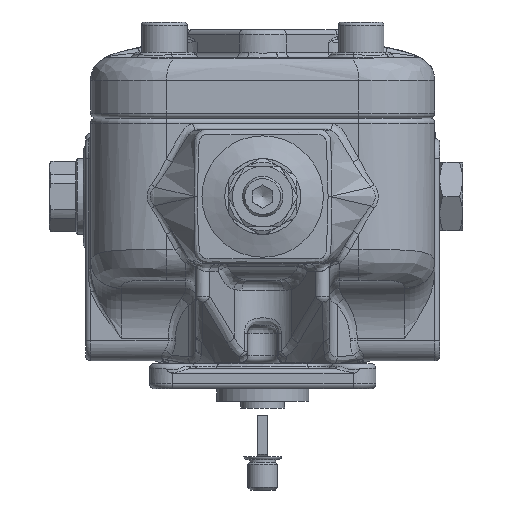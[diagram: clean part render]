
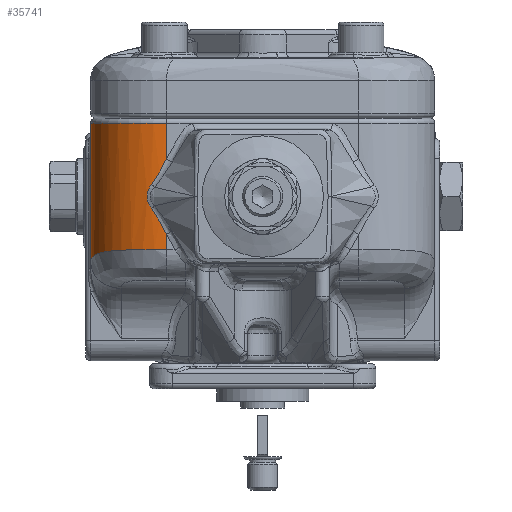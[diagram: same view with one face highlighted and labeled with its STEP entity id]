
A CAD part, front view. The second image highlights one B-rep face of the part: STEP entity #35741.
In plain terms, the highlighted cylindrical face has radius 30 mm (diameter 60 mm), a partial arc.
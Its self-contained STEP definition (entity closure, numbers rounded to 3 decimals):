
#1676=B_SPLINE_CURVE_WITH_KNOTS('',3,(#69648,#69649,#69650,#69651,#69652),
 .UNSPECIFIED.,.F.,.F.,(4,1,4),(-1.207,-0.517,0.),
 .UNSPECIFIED.);
#1681=B_SPLINE_CURVE_WITH_KNOTS('',3,(#69729,#69730,#69731,#69732,#69733,
#69734,#69735),.UNSPECIFIED.,.F.,.F.,(4,1,1,1,4),(-1.056,-0.754,
-0.604,-0.302,0.),.UNSPECIFIED.);
#1683=B_SPLINE_CURVE_WITH_KNOTS('',3,(#69794,#69795,#69796,#69797,#69798),
 .UNSPECIFIED.,.F.,.F.,(4,1,4),(-1.207,-0.69,0.),
 .UNSPECIFIED.);
#1706=B_SPLINE_CURVE_WITH_KNOTS('',3,(#70847,#70848,#70849,#70850,#70851,
#70852,#70853,#70854,#70855,#70856,#70857,#70858,#70859),.UNSPECIFIED.,
 .F.,.F.,(4,1,1,1,1,1,1,1,1,1,4),(-2.896,-2.585,-2.482,
-2.275,-2.068,-1.862,-1.551,
-1.241,-0.827,-0.414,0.),
 .UNSPECIFIED.);
#3530=LINE('',#70840,#5453);
#3531=LINE('',#70843,#5454);
#3532=LINE('',#70846,#5455);
#5453=VECTOR('',#46936,10.);
#5454=VECTOR('',#46939,10.);
#5455=VECTOR('',#46942,10.);
#6291=CYLINDRICAL_SURFACE('',#39048,30.);
#8010=FACE_OUTER_BOUND('',#10189,.T.);
#10189=EDGE_LOOP('',(#28505,#28506,#28507,#28508,#28509,#28510,#28511,#28512));
#12297=CIRCLE('',#39049,30.);
#15061=VERTEX_POINT('',#65444);
#15186=VERTEX_POINT('',#68968);
#15192=VERTEX_POINT('',#69647);
#15195=VERTEX_POINT('',#69720);
#15197=VERTEX_POINT('',#69793);
#15224=VERTEX_POINT('',#70834);
#15226=VERTEX_POINT('',#70842);
#15227=VERTEX_POINT('',#70845);
#19742=EDGE_CURVE('',#15186,#15192,#1676,.T.);
#19750=EDGE_CURVE('',#15192,#15195,#1681,.T.);
#19753=EDGE_CURVE('',#15195,#15197,#1683,.T.);
#19808=EDGE_CURVE('',#15224,#15197,#3530,.T.);
#19809=EDGE_CURVE('',#15186,#15226,#3531,.T.);
#19810=EDGE_CURVE('',#15061,#15226,#12297,.T.);
#19811=EDGE_CURVE('',#15227,#15061,#3532,.T.);
#19812=EDGE_CURVE('',#15224,#15227,#1706,.T.);
#28505=ORIENTED_EDGE('',*,*,#19753,.F.);
#28506=ORIENTED_EDGE('',*,*,#19750,.F.);
#28507=ORIENTED_EDGE('',*,*,#19742,.F.);
#28508=ORIENTED_EDGE('',*,*,#19809,.T.);
#28509=ORIENTED_EDGE('',*,*,#19810,.F.);
#28510=ORIENTED_EDGE('',*,*,#19811,.F.);
#28511=ORIENTED_EDGE('',*,*,#19812,.F.);
#28512=ORIENTED_EDGE('',*,*,#19808,.T.);
#35741=ADVANCED_FACE('',(#8010),#6291,.T.);
#39048=AXIS2_PLACEMENT_3D('',#70841,#46937,#46938);
#39049=AXIS2_PLACEMENT_3D('',#70844,#46940,#46941);
#46936=DIRECTION('',(0.,0.,1.));
#46937=DIRECTION('center_axis',(0.,0.,1.));
#46938=DIRECTION('ref_axis',(-1.,0.,0.));
#46939=DIRECTION('',(0.,0.,1.));
#46940=DIRECTION('center_axis',(0.,0.,
1.));
#46941=DIRECTION('ref_axis',(-0.707,-0.707,0.));
#46942=DIRECTION('',(0.,0.,1.));
#65444=CARTESIAN_POINT('',(-74.54,-40.004,48.252));
#68968=CARTESIAN_POINT('',(-44.54,-70.004,34.144));
#69647=CARTESIAN_POINT('',(-50.505,-69.405,24.053));
#69648=CARTESIAN_POINT('Ctrl Pts',(-44.54,-70.004,
34.144));
#69649=CARTESIAN_POINT('Ctrl Pts',(-45.562,-70.004,32.139));
#69650=CARTESIAN_POINT('Ctrl Pts',(-47.421,-69.916,
28.667));
#69651=CARTESIAN_POINT('Ctrl Pts',(-49.529,-69.603,
25.385));
#69652=CARTESIAN_POINT('Ctrl Pts',(-50.505,-69.405,24.053));
#69720=CARTESIAN_POINT('',(-50.505,-69.405,14.452));
#69729=CARTESIAN_POINT('Ctrl Pts',(-50.505,-69.405,
24.053));
#69730=CARTESIAN_POINT('Ctrl Pts',(-51.074,-69.29,
23.276));
#69731=CARTESIAN_POINT('Ctrl Pts',(-51.816,-69.112,21.989));
#69732=CARTESIAN_POINT('Ctrl Pts',(-52.415,-68.951,
19.522));
#69733=CARTESIAN_POINT('Ctrl Pts',(-52.081,-69.045,16.941));
#69734=CARTESIAN_POINT('Ctrl Pts',(-51.074,-69.29,
15.229));
#69735=CARTESIAN_POINT('Ctrl Pts',(-50.505,-69.405,
14.452));
#69793=CARTESIAN_POINT('',(-44.54,-70.004,4.36));
#69794=CARTESIAN_POINT('Ctrl Pts',(-50.505,-69.405,
14.452));
#69795=CARTESIAN_POINT('Ctrl Pts',(-49.529,-69.603,
13.12));
#69796=CARTESIAN_POINT('Ctrl Pts',(-47.421,-69.916,
9.837));
#69797=CARTESIAN_POINT('Ctrl Pts',(-45.562,-70.004,6.366));
#69798=CARTESIAN_POINT('Ctrl Pts',(-44.54,-70.004,4.36));
#70834=CARTESIAN_POINT('',(-44.54,-70.004,-1.748));
#70840=CARTESIAN_POINT('',(-44.54,-70.004,-14.748));
#70841=CARTESIAN_POINT('Origin',(-44.54,-40.004,-14.748));
#70842=CARTESIAN_POINT('',(-44.54,-70.004,48.252));
#70843=CARTESIAN_POINT('',(-44.54,-70.004,-14.748));
#70844=CARTESIAN_POINT('Origin',(-44.54,-40.004,48.252));
#70845=CARTESIAN_POINT('',(-74.54,-40.004,-6.731));
#70846=CARTESIAN_POINT('',(-74.54,-40.004,-14.748));
#70847=CARTESIAN_POINT('Ctrl Pts',(-44.54,-70.004,
-1.748));
#70848=CARTESIAN_POINT('Ctrl Pts',(-46.277,-70.004,
-1.748));
#70849=CARTESIAN_POINT('Ctrl Pts',(-48.572,-69.805,
-1.747));
#70850=CARTESIAN_POINT('Ctrl Pts',(-51.974,-69.109,
-1.751));
#70851=CARTESIAN_POINT('Ctrl Pts',(-54.763,-68.28,
-1.76));
#70852=CARTESIAN_POINT('Ctrl Pts',(-57.955,-66.911,-1.793));
#70853=CARTESIAN_POINT('Ctrl Pts',(-61.453,-64.912,-1.871));
#70854=CARTESIAN_POINT('Ctrl Pts',(-65.124,-62.033,
-2.054));
#70855=CARTESIAN_POINT('Ctrl Pts',(-68.959,-57.779,-2.482));
#70856=CARTESIAN_POINT('Ctrl Pts',(-72.153,-52.356,
-3.313));
#70857=CARTESIAN_POINT('Ctrl Pts',(-74.139,-46.123,
-4.726));
#70858=CARTESIAN_POINT('Ctrl Pts',(-74.54,-41.975,-6.022));
#70859=CARTESIAN_POINT('Ctrl Pts',(-74.54,-40.004,-6.731));
